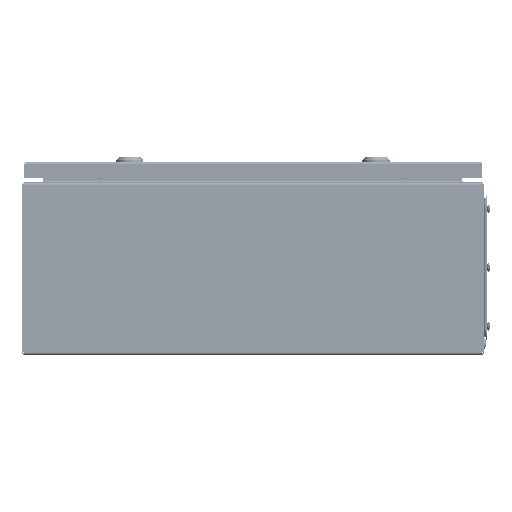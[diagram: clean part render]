
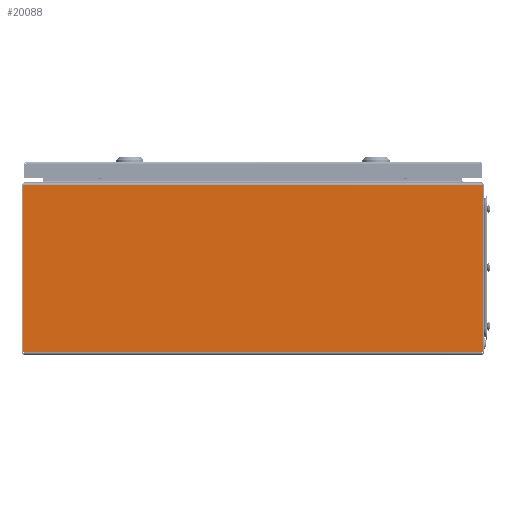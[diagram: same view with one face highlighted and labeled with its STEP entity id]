
A CAD part, left-side view. The second image highlights one B-rep face of the part: STEP entity #20088.
In plain terms, the highlighted planar face has unit normal (-1, 0, 0).
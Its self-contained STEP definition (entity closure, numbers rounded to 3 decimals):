
#221 = LINE ( 'NONE', #70212, #113534 ) ;
#2170 = CARTESIAN_POINT ( 'NONE',  ( -200., 248.529, 2.9 ) ) ;
#5196 = ORIENTED_EDGE ( 'NONE', *, *, #129368, .T. ) ;
#6689 = LINE ( 'NONE', #45109, #86209 ) ;
#11681 = ORIENTED_EDGE ( 'NONE', *, *, #120946, .T. ) ;
#17031 = CARTESIAN_POINT ( 'NONE',  ( -200., 248.423, 183.85 ) ) ;
#17910 = DIRECTION ( 'NONE',  ( 0., 0., -1. ) ) ;
#18480 = CARTESIAN_POINT ( 'NONE',  ( -200., 248.423, 2.9 ) ) ;
#20088 = ADVANCED_FACE ( 'NONE', ( #38873 ), #108831, .F. ) ;
#24504 = VERTEX_POINT ( 'NONE', #98242 ) ;
#26395 = ORIENTED_EDGE ( 'NONE', *, *, #76455, .F. ) ;
#26848 = CARTESIAN_POINT ( 'NONE',  ( -200., 248.529, 2.9 ) ) ;
#27990 = VERTEX_POINT ( 'NONE', #194415 ) ;
#32783 = EDGE_CURVE ( 'NONE', #143729, #168718, #132298, .T. ) ;
#36354 = DIRECTION ( 'NONE',  ( 0., 1., 0. ) ) ;
#38056 = VERTEX_POINT ( 'NONE', #17031 ) ;
#38873 = FACE_OUTER_BOUND ( 'NONE', #196119, .T. ) ;
#39697 = VECTOR ( 'NONE', #152080, 1000. ) ;
#45109 = CARTESIAN_POINT ( 'NONE',  ( -200., -248.423, 2.9 ) ) ;
#46689 = DIRECTION ( 'NONE',  ( 0., 0., 1. ) ) ;
#50697 = DIRECTION ( 'NONE',  ( 0., 1., 0. ) ) ;
#54711 = VECTOR ( 'NONE', #116188, 1000. ) ;
#55131 = EDGE_CURVE ( 'NONE', #167003, #143729, #89518, .T. ) ;
#62079 = VECTOR ( 'NONE', #84909, 1000. ) ;
#70212 = CARTESIAN_POINT ( 'NONE',  ( -200., -248.529, 183.85 ) ) ;
#72801 = CARTESIAN_POINT ( 'NONE',  ( -200., -2750., 183.85 ) ) ;
#76455 = EDGE_CURVE ( 'NONE', #168718, #173988, #136440, .T. ) ;
#84909 = DIRECTION ( 'NONE',  ( 0., 1., 0. ) ) ;
#85045 = VERTEX_POINT ( 'NONE', #164087 ) ;
#86209 = VECTOR ( 'NONE', #111642, 1000. ) ;
#89518 = LINE ( 'NONE', #122150, #62079 ) ;
#91019 = CARTESIAN_POINT ( 'NONE',  ( -200., -248.423, 2.9 ) ) ;
#93736 = DIRECTION ( 'NONE',  ( 1., 0., 0. ) ) ;
#96307 = VECTOR ( 'NONE', #202767, 1000. ) ;
#96852 = CARTESIAN_POINT ( 'NONE',  ( -200., 248.529, 183.85 ) ) ;
#98242 = CARTESIAN_POINT ( 'NONE',  ( -200., -248.529, 2.9 ) ) ;
#105004 = ORIENTED_EDGE ( 'NONE', *, *, #155910, .T. ) ;
#108831 = PLANE ( 'NONE',  #174966 ) ;
#111642 = DIRECTION ( 'NONE',  ( 0., -1., 0. ) ) ;
#113534 = VECTOR ( 'NONE', #36354, 1000. ) ;
#116188 = DIRECTION ( 'NONE',  ( 0., 0., 1. ) ) ;
#120562 = ORIENTED_EDGE ( 'NONE', *, *, #146227, .F. ) ;
#120946 = EDGE_CURVE ( 'NONE', #27990, #38056, #142762, .T. ) ;
#122150 = CARTESIAN_POINT ( 'NONE',  ( -200., -2750., 2.9 ) ) ;
#129368 = EDGE_CURVE ( 'NONE', #85045, #27990, #221, .T. ) ;
#129469 = LINE ( 'NONE', #96852, #96307 ) ;
#132298 = LINE ( 'NONE', #186955, #39697 ) ;
#136440 = LINE ( 'NONE', #26848, #220057 ) ;
#142762 = LINE ( 'NONE', #72801, #212423 ) ;
#143729 = VERTEX_POINT ( 'NONE', #18480 ) ;
#144842 = ORIENTED_EDGE ( 'NONE', *, *, #32783, .F. ) ;
#146227 = EDGE_CURVE ( 'NONE', #173988, #38056, #129469, .T. ) ;
#146779 = ORIENTED_EDGE ( 'NONE', *, *, #161048, .T. ) ;
#149266 = ORIENTED_EDGE ( 'NONE', *, *, #55131, .F. ) ;
#152080 = DIRECTION ( 'NONE',  ( 0., 1., 0. ) ) ;
#155910 = EDGE_CURVE ( 'NONE', #167003, #24504, #6689, .T. ) ;
#161048 = EDGE_CURVE ( 'NONE', #24504, #85045, #223375, .T. ) ;
#162417 = CARTESIAN_POINT ( 'NONE',  ( -200., -2750., 183.85 ) ) ;
#164087 = CARTESIAN_POINT ( 'NONE',  ( -200., -248.529, 183.85 ) ) ;
#167003 = VERTEX_POINT ( 'NONE', #91019 ) ;
#168718 = VERTEX_POINT ( 'NONE', #2170 ) ;
#173988 = VERTEX_POINT ( 'NONE', #180516 ) ;
#174966 = AXIS2_PLACEMENT_3D ( 'NONE', #162417, #93736, #17910 ) ;
#180516 = CARTESIAN_POINT ( 'NONE',  ( -200., 248.529, 183.85 ) ) ;
#186955 = CARTESIAN_POINT ( 'NONE',  ( -200., 248.423, 2.9 ) ) ;
#194415 = CARTESIAN_POINT ( 'NONE',  ( -200., -248.423, 183.85 ) ) ;
#196119 = EDGE_LOOP ( 'NONE', ( #11681, #120562, #26395, #144842, #149266, #105004, #146779, #5196 ) ) ;
#202767 = DIRECTION ( 'NONE',  ( 0., -1., 0. ) ) ;
#204723 = CARTESIAN_POINT ( 'NONE',  ( -200., -248.529, 2.9 ) ) ;
#212423 = VECTOR ( 'NONE', #50697, 1000. ) ;
#220057 = VECTOR ( 'NONE', #46689, 1000. ) ;
#223375 = LINE ( 'NONE', #204723, #54711 ) ;
